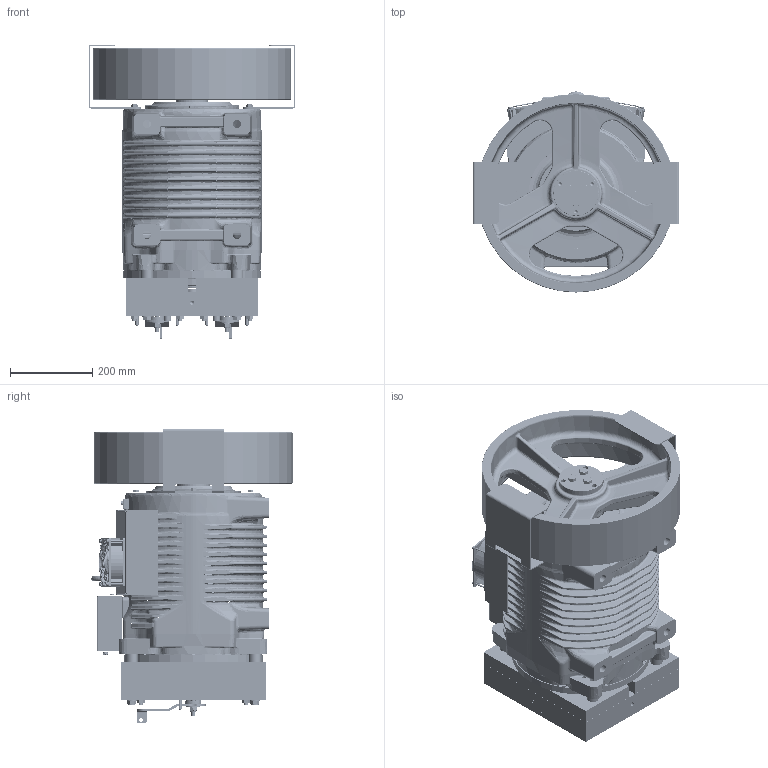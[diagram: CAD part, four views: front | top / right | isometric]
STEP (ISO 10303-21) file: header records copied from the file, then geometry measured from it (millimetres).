
FILE_DESCRIPTION((''),'2;1');
FILE_NAME('00363588_ASM','2020-06-08T',('furlanis'),('Sicor spa'),'CREO PARAMETRIC BY PTC INC, 2017170','CREO PARAMETRIC BY PTC INC, 2017170','');
FILE_SCHEMA(('CONFIG_CONTROL_DESIGN'));
Products named in the file (18): SG48; _480; _480_125; 00073486; TEM12X45_VIT0222; 00255325; M4_FTT_C; 00257514_ASM; 00002908; 00002901; 00002909_ASM; 00002902; 00042420_M4X50; TEM6X12_VIR0184; 00000263; 00257517_ASM; RTW800_MIT_HL; 00363588_ASM
Assembly tree (37 placements, depth 4):
  00363588_ASM
    SG48
    _480  x2
    _480_125
    00073486
    TEM12X45_VIT0222  x3
    00257517_ASM
      00257514_ASM
        00255325
        M4_FTT_C  x8
      00002909_ASM  x2
        00002908
        00002901
      00002902  x2
      00042420_M4X50  x8
      TEM6X12_VIR0184  x2
      00000263
    RTW800_MIT_HL
Bounding box: 503 x 490.5 x 718.34 mm (x, y, z)
Volume: 19298269.6 mm3; surface area: 3699767 mm2
Topology: 35 solids, 289 shells, 9014 faces, 26157 edges, 17356 vertices
Faces by surface type: plane 4496, cylinder 1893, bspline 1139, cone 725, torus 701, sphere 48, revolution 12
Entity records: 377996 total; most frequent: CARTESIAN_POINT 169914, ORIENTED_EDGE 44038, DIRECTION 38527, EDGE_CURVE 24493, VERTEX_POINT 16379, VECTOR 13893, LINE 13893, AXIS2_PLACEMENT_3D 12311
